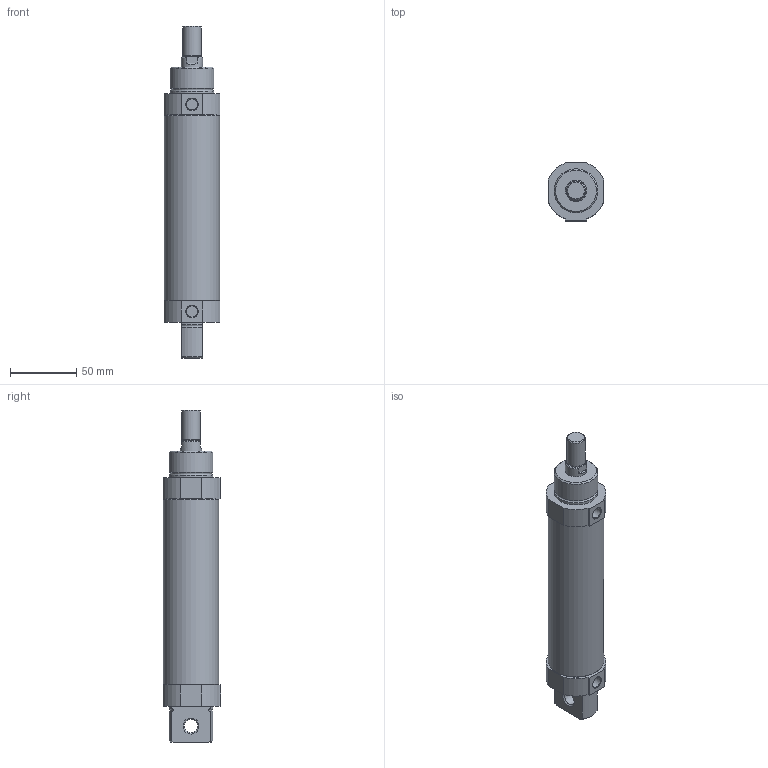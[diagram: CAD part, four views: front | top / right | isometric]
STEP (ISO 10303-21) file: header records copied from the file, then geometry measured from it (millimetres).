
FILE_DESCRIPTION((''),'2;1');
FILE_NAME('I:\3D電子目錄\氣缸\SDA\SDA40\SDA40\SDA40x100.stp','2007-08-06T10:37:06',('Administrator'),(''),'Autodesk Inventor 2008','Autodesk Inventor 2008','');
FILE_SCHEMA(('AUTOMOTIVE_DESIGN { 1 0 10303 214 1 1 1 1 }'));
Length unit declared in the file: millimetre
Products named in the file (1): SDA40X100
Bounding box: 42 x 43.5 x 250 mm (x, y, z)
Volume: 274828.9 mm3; surface area: 33440.3 mm2
Topology: 1 solids, 1 shells, 65 faces, 152 edges, 98 vertices
Faces by surface type: plane 27, cylinder 21, cone 12, torus 3, bspline 2
Full cylindrical faces by diameter (mm): 8.5 x2, 10 x1, 12.6 x1, 14 x1, 16 x1, 33 x2, 41.8 x1
Entity records: 1946 total; most frequent: CARTESIAN_POINT 486, DIRECTION 306, ORIENTED_EDGE 266, EDGE_CURVE 133, AXIS2_PLACEMENT_3D 121, VERTEX_POINT 97, EDGE_LOOP 94, FACE_OUTER_BOUND 65
